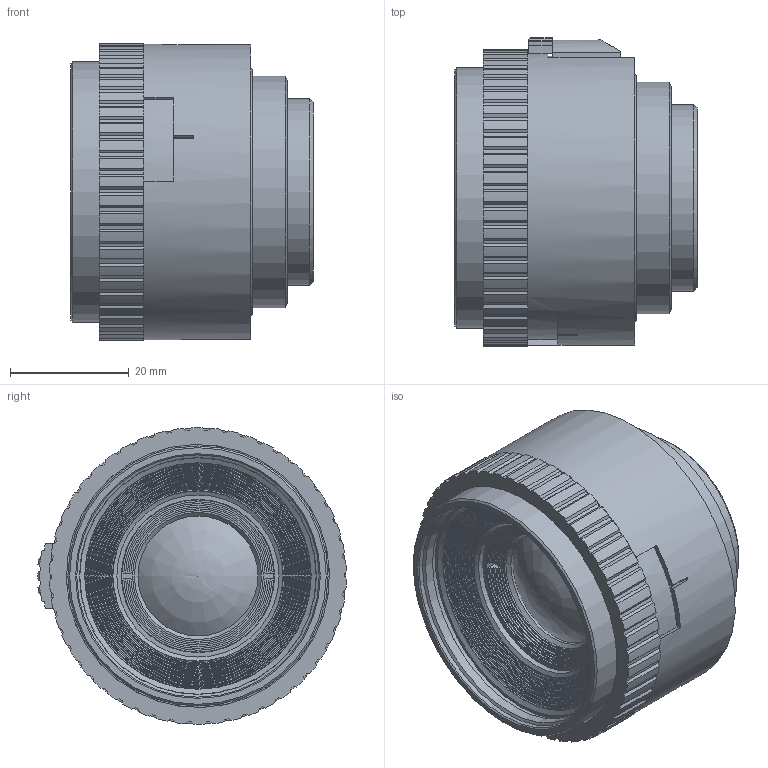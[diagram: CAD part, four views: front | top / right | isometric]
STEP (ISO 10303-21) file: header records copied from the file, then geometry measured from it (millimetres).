
FILE_DESCRIPTION(/* description */ (''),/* implementation_level */ '2;1');
FILE_NAME(/* name */ '0701-393-000-40_AP',/* time_stamp */ '2009-07-29T15:50:49+02:00',/* author */ (''),/* organization */ (''),/* preprocessor_version */ 'ST-DEVELOPER v9',/* originating_system */ 'UGS - NX 4.0',/* authorisation */ '');
FILE_SCHEMA (('AUTOMOTIVE_DESIGN { 1 0 10303 214 1 1 1 1 }'));
Length unit declared in the file: millimetre
Products named in the file (1): pant4B41j30w
Bounding box: 40.76 x 51.99 x 50 mm (x, y, z)
Volume: 54626.4 mm3; surface area: 14884 mm2
Topology: 1 solids, 3 shells, 489 faces, 1291 edges, 821 vertices
Faces by surface type: plane 326, cylinder 103, cone 39, torus 19, revolution 2
Full cylindrical faces by diameter (mm): 18.6 x1, 20.2 x1, 21.4 x1, 22 x1, 23 x1, 25 x1, 25.2 x2, 25.8 x1, 27.3 x1, 29 x1, 31.3 x1, 31.5 x1, 35.6 x1, 39 x1, 39.887 x1, 40.2 x1, 40.5 x1, 40.8 x2, 43.8 x1, 44.3 x1, 49.7 x1
Entity records: 17694 total; most frequent: DIRECTION 2507, CARTESIAN_POINT 2469, ORIENTED_EDGE 2334, EDGE_CURVE 1167, AXIS2_PLACEMENT_3D 858, LINE 789, VECTOR 789, VERTEX_POINT 778
